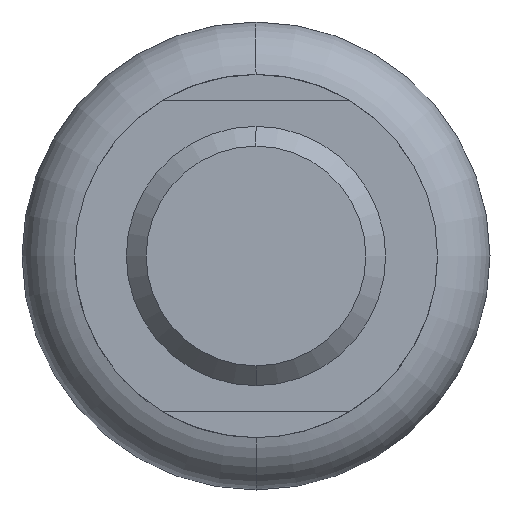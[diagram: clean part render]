
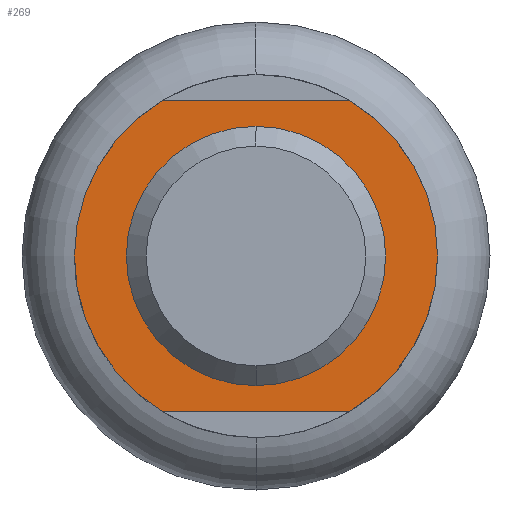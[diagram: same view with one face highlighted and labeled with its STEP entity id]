
A CAD part, front view. The second image highlights one B-rep face of the part: STEP entity #269.
In plain terms, the highlighted planar face has unit normal (0, -1, 0).
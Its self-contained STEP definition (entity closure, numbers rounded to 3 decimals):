
#167=CARTESIAN_POINT('Vertex',(0.,30.,10.)) ;
#174=CARTESIAN_POINT('Vertex',(0.,30.,-10.)) ;
#177=CARTESIAN_POINT('Axis2P3D Location',(0.,30.,0.)) ;
#181=CARTESIAN_POINT('Vertex',(10.,30.,0.)) ;
#184=CARTESIAN_POINT('Axis2P3D Location',(0.,30.,0.)) ;
#203=CARTESIAN_POINT('Axis2P3D Location',(0.,30.,0.)) ;
#207=CARTESIAN_POINT('Vertex',(-10.,30.,0.)) ;
#210=CARTESIAN_POINT('Axis2P3D Location',(0.,30.,0.)) ;
#224=CARTESIAN_POINT('Axis2P3D Location',(-10.,30.,0.)) ;
#229=CARTESIAN_POINT('Axis2P3D Location',(0.,30.,0.)) ;
#233=CARTESIAN_POINT('Vertex',(-7.211,30.,-12.)) ;
#235=CARTESIAN_POINT('Vertex',(-7.211,30.,12.)) ;
#238=CARTESIAN_POINT('Line Origine',(0.,30.,-12.)) ;
#242=CARTESIAN_POINT('Vertex',(7.211,30.,-12.)) ;
#245=CARTESIAN_POINT('Axis2P3D Location',(0.,30.,0.)) ;
#249=CARTESIAN_POINT('Vertex',(7.211,30.,12.)) ;
#252=CARTESIAN_POINT('Line Origine',(0.,30.,12.)) ;
#178=DIRECTION('Axis2P3D Direction',(0.,-1.,0.)) ;
#185=DIRECTION('Axis2P3D Direction',(0.,-1.,0.)) ;
#204=DIRECTION('Axis2P3D Direction',(0.,-1.,0.)) ;
#211=DIRECTION('Axis2P3D Direction',(0.,-1.,0.)) ;
#225=DIRECTION('Axis2P3D Direction',(-0.,1.,0.)) ;
#226=DIRECTION('Axis2P3D XDirection',(0.,0.,1.)) ;
#230=DIRECTION('Axis2P3D Direction',(-0.,1.,0.)) ;
#239=DIRECTION('Vector Direction',(1.,0.,0.)) ;
#246=DIRECTION('Axis2P3D Direction',(-0.,1.,0.)) ;
#253=DIRECTION('Vector Direction',(-1.,0.,0.)) ;
#179=AXIS2_PLACEMENT_3D('Circle Axis2P3D',#177,#178,$) ;
#186=AXIS2_PLACEMENT_3D('Circle Axis2P3D',#184,#185,$) ;
#205=AXIS2_PLACEMENT_3D('Circle Axis2P3D',#203,#204,$) ;
#212=AXIS2_PLACEMENT_3D('Circle Axis2P3D',#210,#211,$) ;
#227=AXIS2_PLACEMENT_3D('Plane Axis2P3D',#224,#225,#226) ;
#231=AXIS2_PLACEMENT_3D('Circle Axis2P3D',#229,#230,$) ;
#247=AXIS2_PLACEMENT_3D('Circle Axis2P3D',#245,#246,$) ;
#258=ORIENTED_EDGE('',*,*,#237,.F.) ;
#259=ORIENTED_EDGE('',*,*,#244,.T.) ;
#260=ORIENTED_EDGE('',*,*,#251,.F.) ;
#261=ORIENTED_EDGE('',*,*,#256,.T.) ;
#264=ORIENTED_EDGE('',*,*,#183,.T.) ;
#265=ORIENTED_EDGE('',*,*,#214,.T.) ;
#266=ORIENTED_EDGE('',*,*,#209,.T.) ;
#267=ORIENTED_EDGE('',*,*,#188,.T.) ;
#268=FACE_BOUND('',#263,.T.) ;
#240=VECTOR('Line Direction',#239,1.) ;
#254=VECTOR('Line Direction',#253,1.) ;
#269=ADVANCED_FACE('384F-3',(#262,#268),#228,.F.) ;
#180=CIRCLE('generated circle',#179,10.) ;
#187=CIRCLE('generated circle',#186,10.) ;
#206=CIRCLE('generated circle',#205,10.) ;
#213=CIRCLE('generated circle',#212,10.) ;
#232=CIRCLE('generated circle',#231,14.) ;
#248=CIRCLE('generated circle',#247,14.) ;
#183=EDGE_CURVE('',#182,#175,#180,.F.) ;
#188=EDGE_CURVE('',#168,#182,#187,.F.) ;
#209=EDGE_CURVE('',#208,#168,#206,.F.) ;
#214=EDGE_CURVE('',#175,#208,#213,.F.) ;
#237=EDGE_CURVE('',#234,#236,#232,.T.) ;
#244=EDGE_CURVE('',#234,#243,#241,.T.) ;
#251=EDGE_CURVE('',#250,#243,#248,.T.) ;
#256=EDGE_CURVE('',#250,#236,#255,.T.) ;
#257=EDGE_LOOP('',(#258,#259,#260,#261)) ;
#263=EDGE_LOOP('',(#264,#265,#266,#267)) ;
#262=FACE_OUTER_BOUND('',#257,.T.) ;
#241=LINE('Line',#238,#240) ;
#255=LINE('Line',#252,#254) ;
#228=PLANE('Plane',#227) ;
#168=VERTEX_POINT('',#167) ;
#175=VERTEX_POINT('',#174) ;
#182=VERTEX_POINT('',#181) ;
#208=VERTEX_POINT('',#207) ;
#234=VERTEX_POINT('',#233) ;
#236=VERTEX_POINT('',#235) ;
#243=VERTEX_POINT('',#242) ;
#250=VERTEX_POINT('',#249) ;
